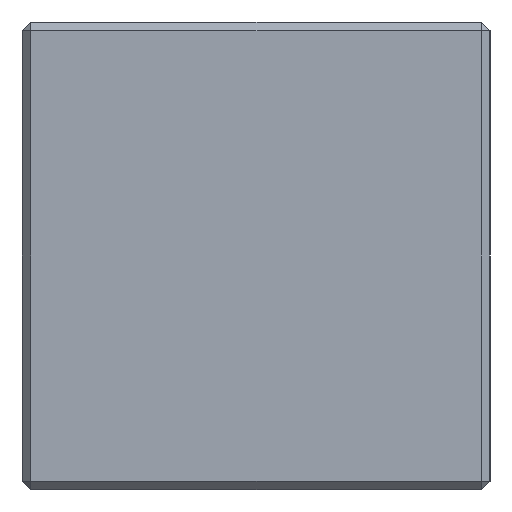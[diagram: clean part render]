
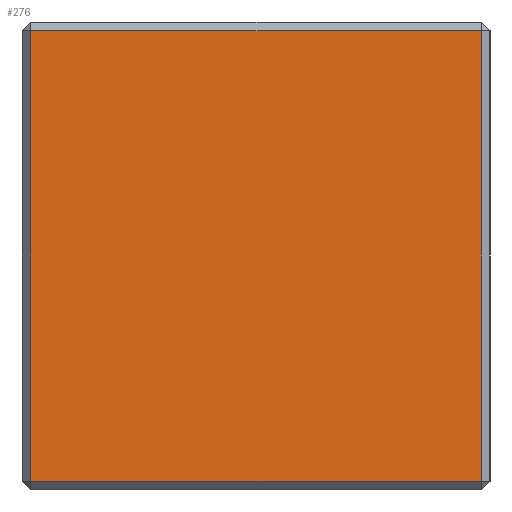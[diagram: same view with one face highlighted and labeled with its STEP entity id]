
A CAD part, left-side view. The second image highlights one B-rep face of the part: STEP entity #276.
In plain terms, the highlighted planar face has unit normal (-1, 0, 0).
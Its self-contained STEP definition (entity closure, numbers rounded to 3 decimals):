
#265 = ORIENTED_EDGE ( 'NONE', *, *, #266, .T. ) ;
#266 = EDGE_CURVE ( 'NONE', #268, #267, #724, .T. ) ;
#267 = VERTEX_POINT ( 'NONE', #718 ) ;
#268 = VERTEX_POINT ( 'NONE', #717 ) ;
#269 = ORIENTED_EDGE ( 'NONE', *, *, #270, .T. ) ;
#270 = EDGE_CURVE ( 'NONE', #267, #280, #716, .T. ) ;
#271 = ORIENTED_EDGE ( 'NONE', *, *, #272, .T. ) ;
#272 = EDGE_CURVE ( 'NONE', #280, #278, #776, .T. ) ;
#276 = ADVANCED_FACE ( 'NONE', ( #765 ), #771, .F. ) ;
#277 = EDGE_LOOP ( 'NONE', ( #279, #265, #269, #271 ) ) ;
#278 = VERTEX_POINT ( 'NONE', #760 ) ;
#279 = ORIENTED_EDGE ( 'NONE', *, *, #281, .T. ) ;
#280 = VERTEX_POINT ( 'NONE', #759 ) ;
#281 = EDGE_CURVE ( 'NONE', #278, #268, #758, .T. ) ;
#451 = DIRECTION ( 'NONE',  ( 0., 1., 0. ) ) ;
#454 = VECTOR ( 'NONE', #451, 1000. ) ;
#715 = CARTESIAN_POINT ( 'NONE',  ( -13., 22., 10.6 ) ) ;
#716 = LINE ( 'NONE', #715, #454 ) ;
#717 = CARTESIAN_POINT ( 'NONE',  ( -13., 0.4, -10.6 ) ) ;
#718 = CARTESIAN_POINT ( 'NONE',  ( -13., 0.4, 10.6 ) ) ;
#719 = DIRECTION ( 'NONE',  ( 0., 0., 1. ) ) ;
#720 = VECTOR ( 'NONE', #719, 1000. ) ;
#721 = CARTESIAN_POINT ( 'NONE',  ( -13., 0.4, -11. ) ) ;
#724 = LINE ( 'NONE', #721, #720 ) ;
#755 = DIRECTION ( 'NONE',  ( 0., -1., 0. ) ) ;
#756 = VECTOR ( 'NONE', #755, 1000. ) ;
#757 = CARTESIAN_POINT ( 'NONE',  ( -13., 22., -10.6 ) ) ;
#758 = LINE ( 'NONE', #757, #756 ) ;
#759 = CARTESIAN_POINT ( 'NONE',  ( -13., 21.6, 10.6 ) ) ;
#760 = CARTESIAN_POINT ( 'NONE',  ( -13., 21.6, -10.6 ) ) ;
#761 = DIRECTION ( 'NONE',  ( 0., 0., -1. ) ) ;
#762 = DIRECTION ( 'NONE',  ( 1., 0., 0. ) ) ;
#763 = CARTESIAN_POINT ( 'NONE',  ( -13., 22., -11. ) ) ;
#764 = AXIS2_PLACEMENT_3D ( 'NONE', #763, #762, #761 ) ;
#765 = FACE_OUTER_BOUND ( 'NONE', #277, .T. ) ;
#771 = PLANE ( 'NONE',  #764 ) ;
#773 = DIRECTION ( 'NONE',  ( 0., 0., -1. ) ) ;
#774 = VECTOR ( 'NONE', #773, 1000. ) ;
#775 = CARTESIAN_POINT ( 'NONE',  ( -13., 21.6, -11. ) ) ;
#776 = LINE ( 'NONE', #775, #774 ) ;
